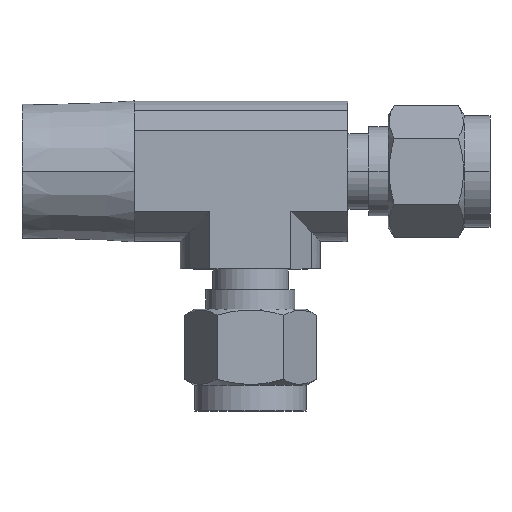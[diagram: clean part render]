
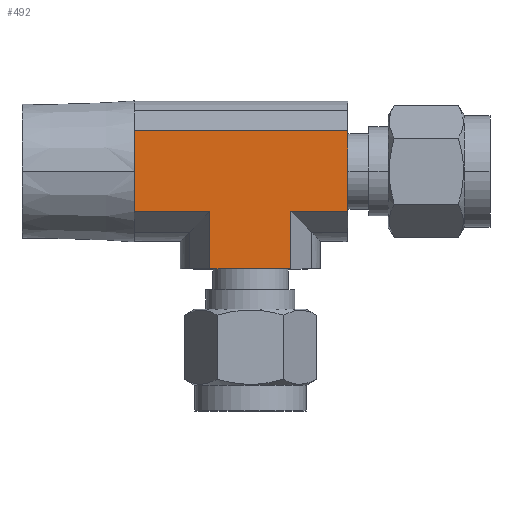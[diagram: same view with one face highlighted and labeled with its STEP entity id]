
A CAD part, top view. The second image highlights one B-rep face of the part: STEP entity #492.
In plain terms, the highlighted planar face has unit normal (0, 0, 1).
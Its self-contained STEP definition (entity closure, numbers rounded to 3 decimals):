
#460 = VERTEX_POINT ( 'NONE', #1433 ) ;
#462 = VERTEX_POINT ( 'NONE', #1431 ) ;
#465 = EDGE_CURVE ( 'NONE', #593, #468, #1380, .T. ) ;
#468 = VERTEX_POINT ( 'NONE', #1371 ) ;
#474 = ORIENTED_EDGE ( 'NONE', *, *, #537, .F. ) ;
#475 = ORIENTED_EDGE ( 'NONE', *, *, #2560, .F. ) ;
#476 = ORIENTED_EDGE ( 'NONE', *, *, #490, .T. ) ;
#477 = ORIENTED_EDGE ( 'NONE', *, *, #478, .F. ) ;
#478 = EDGE_CURVE ( 'NONE', #462, #2512, #1533, .T. ) ;
#490 = EDGE_CURVE ( 'NONE', #2623, #468, #1510, .T. ) ;
#492 = ADVANCED_FACE ( 'NONE', ( #1506 ), #1363, .F. ) ;
#493 = EDGE_LOOP ( 'NONE', ( #494, #495, #497, #605, #474, #475, #476, #560, #561, #477 ) ) ;
#494 = ORIENTED_EDGE ( 'NONE', *, *, #2732, .F. ) ;
#495 = ORIENTED_EDGE ( 'NONE', *, *, #496, .F. ) ;
#496 = EDGE_CURVE ( 'NONE', #2657, #460, #1364, .T. ) ;
#497 = ORIENTED_EDGE ( 'NONE', *, *, #2656, .F. ) ;
#532 = VERTEX_POINT ( 'NONE', #1627 ) ;
#537 = EDGE_CURVE ( 'NONE', #2671, #532, #1667, .T. ) ;
#560 = ORIENTED_EDGE ( 'NONE', *, *, #465, .F. ) ;
#561 = ORIENTED_EDGE ( 'NONE', *, *, #562, .F. ) ;
#562 = EDGE_CURVE ( 'NONE', #2512, #593, #1566, .T. ) ;
#593 = VERTEX_POINT ( 'NONE', #1596 ) ;
#605 = ORIENTED_EDGE ( 'NONE', *, *, #606, .T. ) ;
#606 = EDGE_CURVE ( 'NONE', #2716, #532, #1704, .T. ) ;
#1356 = DIRECTION ( 'NONE',  ( 0., 1., 0. ) ) ;
#1357 = VECTOR ( 'NONE', #1356, 1000. ) ;
#1358 = CARTESIAN_POINT ( 'NONE',  ( -5.052, -12.17, 8.75 ) ) ;
#1359 = DIRECTION ( 'NONE',  ( -1., 0., 0. ) ) ;
#1360 = DIRECTION ( 'NONE',  ( 0., 0., -1. ) ) ;
#1361 = CARTESIAN_POINT ( 'NONE',  ( 12.17, 5.052, 8.75 ) ) ;
#1362 = AXIS2_PLACEMENT_3D ( 'NONE', #1361, #1360, #1359 ) ;
#1363 = PLANE ( 'NONE',  #1362 ) ;
#1364 = LINE ( 'NONE', #1358, #1357 ) ;
#1371 = CARTESIAN_POINT ( 'NONE',  ( -14.5, 5.052, 8.75 ) ) ;
#1372 = DIRECTION ( 'NONE',  ( 0., 1., 0. ) ) ;
#1373 = VECTOR ( 'NONE', #1372, 1000. ) ;
#1374 = CARTESIAN_POINT ( 'NONE',  ( -14.5, -5.052, 8.75 ) ) ;
#1380 = LINE ( 'NONE', #1374, #1373 ) ;
#1431 = CARTESIAN_POINT ( 'NONE',  ( -14.5, -5.052, 8.75 ) ) ;
#1433 = CARTESIAN_POINT ( 'NONE',  ( -5.052, -5.052, 8.75 ) ) ;
#1506 = FACE_OUTER_BOUND ( 'NONE', #493, .T. ) ;
#1507 = DIRECTION ( 'NONE',  ( -1., 0., 0. ) ) ;
#1508 = VECTOR ( 'NONE', #1507, 1000. ) ;
#1509 = CARTESIAN_POINT ( 'NONE',  ( 12.17, 5.052, 8.75 ) ) ;
#1510 = LINE ( 'NONE', #1509, #1508 ) ;
#1525 = DIRECTION ( 'NONE',  ( 0., 1., 0. ) ) ;
#1526 = VECTOR ( 'NONE', #1525, 1000. ) ;
#1527 = CARTESIAN_POINT ( 'NONE',  ( -14.5, -5.052, 8.75 ) ) ;
#1533 = LINE ( 'NONE', #1527, #1526 ) ;
#1563 = DIRECTION ( 'NONE',  ( 0., 1., 0. ) ) ;
#1564 = VECTOR ( 'NONE', #1563, 1000. ) ;
#1565 = CARTESIAN_POINT ( 'NONE',  ( -14.5, -5.052, 8.75 ) ) ;
#1566 = LINE ( 'NONE', #1565, #1564 ) ;
#1596 = CARTESIAN_POINT ( 'NONE',  ( -14.5, 0.92, 8.75 ) ) ;
#1627 = CARTESIAN_POINT ( 'NONE',  ( 5.052, -5.052, 8.75 ) ) ;
#1664 = DIRECTION ( 'NONE',  ( -1., 0., 0. ) ) ;
#1665 = VECTOR ( 'NONE', #1664, 1000. ) ;
#1666 = CARTESIAN_POINT ( 'NONE',  ( 12.17, -5.052, 8.75 ) ) ;
#1667 = LINE ( 'NONE', #1666, #1665 ) ;
#1698 = DIRECTION ( 'NONE',  ( 0., 1., 0. ) ) ;
#1699 = VECTOR ( 'NONE', #1698, 1000. ) ;
#1700 = CARTESIAN_POINT ( 'NONE',  ( 5.052, -12.17, 8.75 ) ) ;
#1704 = LINE ( 'NONE', #1700, #1699 ) ;
#1839 = CARTESIAN_POINT ( 'NONE',  ( -14.5, -0.92, 8.75 ) ) ;
#2123 = CARTESIAN_POINT ( 'NONE',  ( 12.17, 5.052, 8.75 ) ) ;
#2173 = DIRECTION ( 'NONE',  ( 0., -1., 0. ) ) ;
#2174 = VECTOR ( 'NONE', #2173, 1000. ) ;
#2175 = CARTESIAN_POINT ( 'NONE',  ( 12.17, 5.052, 8.75 ) ) ;
#2176 = LINE ( 'NONE', #2175, #2174 ) ;
#2343 = CARTESIAN_POINT ( 'NONE',  ( 5.052, -12.17, 8.75 ) ) ;
#2381 = DIRECTION ( 'NONE',  ( -1., 0., 0. ) ) ;
#2382 = VECTOR ( 'NONE', #2381, 1000. ) ;
#2383 = CARTESIAN_POINT ( 'NONE',  ( 12.17, -5.052, 8.75 ) ) ;
#2387 = LINE ( 'NONE', #2383, #2382 ) ;
#2425 = CARTESIAN_POINT ( 'NONE',  ( 12.17, -5.052, 8.75 ) ) ;
#2445 = CARTESIAN_POINT ( 'NONE',  ( -5.052, -12.17, 8.75 ) ) ;
#2446 = DIRECTION ( 'NONE',  ( -1., 0., 0. ) ) ;
#2447 = VECTOR ( 'NONE', #2446, 1000. ) ;
#2448 = CARTESIAN_POINT ( 'NONE',  ( 5.052, -12.17, 8.75 ) ) ;
#2449 = LINE ( 'NONE', #2448, #2447 ) ;
#2512 = VERTEX_POINT ( 'NONE', #1839 ) ;
#2560 = EDGE_CURVE ( 'NONE', #2623, #2671, #2176, .T. ) ;
#2623 = VERTEX_POINT ( 'NONE', #2123 ) ;
#2656 = EDGE_CURVE ( 'NONE', #2716, #2657, #2449, .T. ) ;
#2657 = VERTEX_POINT ( 'NONE', #2445 ) ;
#2671 = VERTEX_POINT ( 'NONE', #2425 ) ;
#2716 = VERTEX_POINT ( 'NONE', #2343 ) ;
#2732 = EDGE_CURVE ( 'NONE', #460, #462, #2387, .T. ) ;
